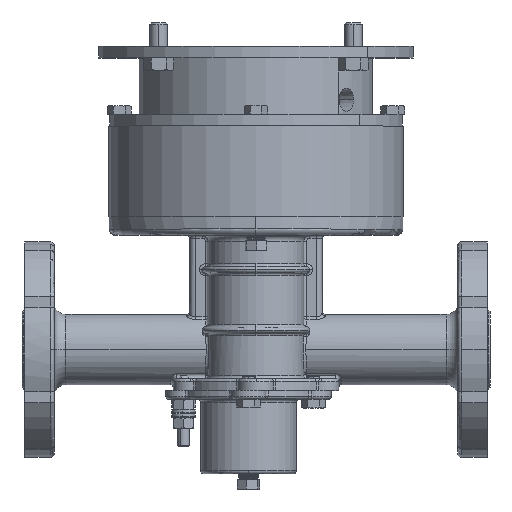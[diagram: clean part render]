
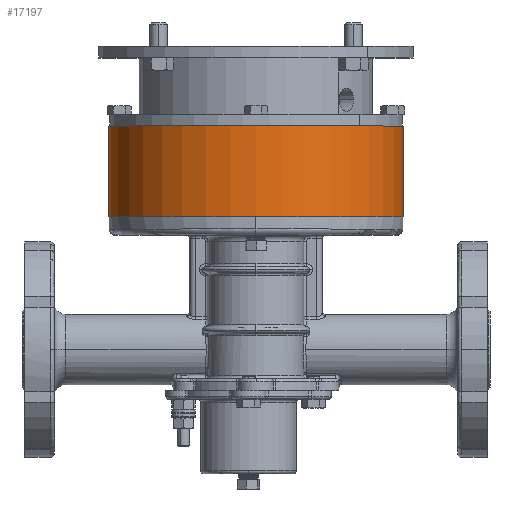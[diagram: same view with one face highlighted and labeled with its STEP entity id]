
A CAD part, top view. The second image highlights one B-rep face of the part: STEP entity #17197.
In plain terms, the highlighted cylindrical face has radius 79.756 mm (diameter 159.512 mm), a partial arc.
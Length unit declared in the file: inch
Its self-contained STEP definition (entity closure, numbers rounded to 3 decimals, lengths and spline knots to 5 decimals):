
#14 = LINE ( 'NONE', #20385, #33515 ) ;
#883 = VECTOR ( 'NONE', #11288, 39.37008 ) ;
#4108 = DIRECTION ( 'NONE',  ( 0., 1., 0. ) ) ;
#5734 = AXIS2_PLACEMENT_3D ( 'NONE', #21578, #15005, #22216 ) ;
#6680 = AXIS2_PLACEMENT_3D ( 'NONE', #27636, #10954, #23663 ) ;
#6792 = DIRECTION ( 'NONE',  ( 0., 1., 0. ) ) ;
#8026 = VERTEX_POINT ( 'NONE', #38031 ) ;
#8267 = ORIENTED_EDGE ( 'NONE', *, *, #21264, .T. ) ;
#10954 = DIRECTION ( 'NONE',  ( 0., 1., 0. ) ) ;
#11288 = DIRECTION ( 'NONE',  ( 0., 1., 0. ) ) ;
#15005 = DIRECTION ( 'NONE',  ( 0., 1., 0. ) ) ;
#16393 = EDGE_CURVE ( 'NONE', #39602, #8026, #35174, .T. ) ;
#17197 = ADVANCED_FACE ( 'NONE', ( #31304 ), #34159, .T. ) ;
#17311 = EDGE_LOOP ( 'NONE', ( #20037, #41104, #8267, #33153 ) ) ;
#18456 = EDGE_CURVE ( 'NONE', #41062, #32538, #30526, .T. ) ;
#20037 = ORIENTED_EDGE ( 'NONE', *, *, #25976, .F. ) ;
#20385 = CARTESIAN_POINT ( 'NONE',  ( 0., -0.9685, 3.14 ) ) ;
#21264 = EDGE_CURVE ( 'NONE', #8026, #32538, #14, .T. ) ;
#21578 = CARTESIAN_POINT ( 'NONE',  ( 0., -0.9685, 0. ) ) ;
#21761 = CARTESIAN_POINT ( 'NONE',  ( 0., 0.9685, -3.14 ) ) ;
#22216 = DIRECTION ( 'NONE',  ( 0., 0., 1. ) ) ;
#23663 = DIRECTION ( 'NONE',  ( 0., 0., 1. ) ) ;
#23821 = CARTESIAN_POINT ( 'NONE',  ( 0., -0.9685, 0. ) ) ;
#24813 = AXIS2_PLACEMENT_3D ( 'NONE', #23821, #4108, #37664 ) ;
#25738 = CARTESIAN_POINT ( 'NONE',  ( 0., -0.9685, -3.14 ) ) ;
#25976 = EDGE_CURVE ( 'NONE', #39602, #41062, #37190, .T. ) ;
#27636 = CARTESIAN_POINT ( 'NONE',  ( 0., 0.9685, 0. ) ) ;
#30526 = CIRCLE ( 'NONE', #6680, 3.14 ) ;
#31304 = FACE_OUTER_BOUND ( 'NONE', #17311, .T. ) ;
#32538 = VERTEX_POINT ( 'NONE', #39526 ) ;
#33153 = ORIENTED_EDGE ( 'NONE', *, *, #18456, .F. ) ;
#33515 = VECTOR ( 'NONE', #6792, 39.37008 ) ;
#34159 = CYLINDRICAL_SURFACE ( 'NONE', #24813, 3.14 ) ;
#35174 = CIRCLE ( 'NONE', #5734, 3.14 ) ;
#37190 = LINE ( 'NONE', #41355, #883 ) ;
#37664 = DIRECTION ( 'NONE',  ( 0., 0., 1. ) ) ;
#38031 = CARTESIAN_POINT ( 'NONE',  ( 0., -0.9685, 3.14 ) ) ;
#39526 = CARTESIAN_POINT ( 'NONE',  ( 0., 0.9685, 3.14 ) ) ;
#39602 = VERTEX_POINT ( 'NONE', #25738 ) ;
#41062 = VERTEX_POINT ( 'NONE', #21761 ) ;
#41104 = ORIENTED_EDGE ( 'NONE', *, *, #16393, .T. ) ;
#41355 = CARTESIAN_POINT ( 'NONE',  ( 0., -0.9685, -3.14 ) ) ;
